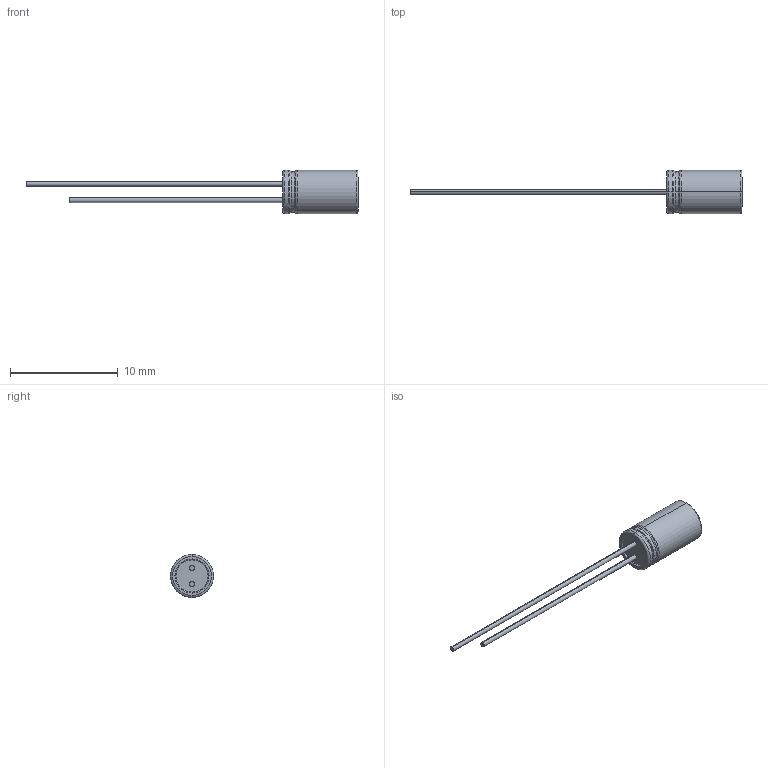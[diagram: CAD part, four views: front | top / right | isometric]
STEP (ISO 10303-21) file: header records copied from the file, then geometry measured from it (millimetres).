
FILE_DESCRIPTION((''),'2;1');
FILE_NAME('POLYMER-RADIAL4X7','2020-06-03T',('xy'),(''),'PRO/ENGINEER BY PARAMETRIC TECHNOLOGY CORPORATION, 2009380','PRO/ENGINEER BY PARAMETRIC TECHNOLOGY CORPORATION, 2009380','');
FILE_SCHEMA(('CONFIG_CONTROL_DESIGN'));
Length unit declared in the file: millimetre
Products named in the file (1): POLYMER-RADIAL4X7
Bounding box: 30.8 x 4 x 4 mm (x, y, z)
Volume: 92.8 mm3; surface area: 175.7 mm2
Topology: 1 solids, 1 shells, 415 faces, 1146 edges, 758 vertices
Faces by surface type: plane 387, cylinder 13, torus 11, cone 4
Entity records: 13006 total; most frequent: CARTESIAN_POINT 2329, ORIENTED_EDGE 2292, DIRECTION 2020, EDGE_CURVE 1146, VECTOR 1098, LINE 1098, VERTEX_POINT 758, AXIS2_PLACEMENT_3D 461
